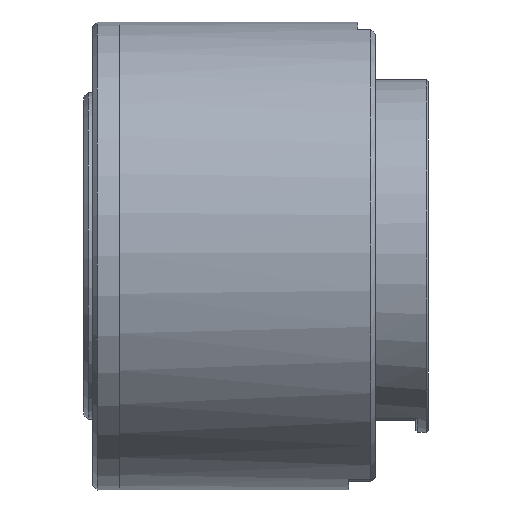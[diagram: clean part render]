
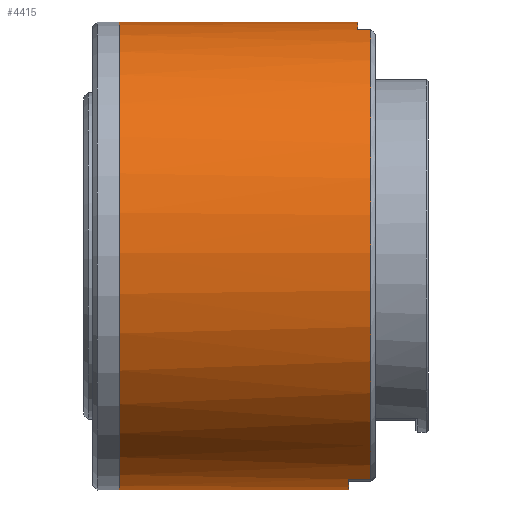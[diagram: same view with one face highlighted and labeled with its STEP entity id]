
A CAD part, top view. The second image highlights one B-rep face of the part: STEP entity #4415.
In plain terms, the highlighted cylindrical face has radius 26.5 mm (diameter 53 mm), a full revolution.
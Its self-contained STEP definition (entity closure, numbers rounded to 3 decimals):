
#100=CYLINDRICAL_SURFACE('',#4914,26.5);
#394=FACE_OUTER_BOUND('',#662,.T.);
#662=EDGE_LOOP('',(#3418,#3419,#3420,#3421,#3422,#3423,#3424,#3425,#3426,
#3427,#3428,#3429,#3430));
#943=LINE('',#7458,#1190);
#954=LINE('',#7505,#1201);
#963=LINE('',#7554,#1210);
#964=LINE('',#7561,#1211);
#965=LINE('',#7565,#1212);
#1190=VECTOR('',#5896,10.);
#1201=VECTOR('',#5937,10.);
#1210=VECTOR('',#5970,26.5);
#1211=VECTOR('',#5977,10.);
#1212=VECTOR('',#5980,10.);
#1516=CIRCLE('',#4915,26.5);
#1517=CIRCLE('',#4916,26.5);
#1518=CIRCLE('',#4917,26.5);
#1519=CIRCLE('',#4918,26.5);
#1520=CIRCLE('',#4919,26.5);
#1521=CIRCLE('',#4920,26.5);
#1522=CIRCLE('',#4921,26.5);
#1939=VERTEX_POINT('',#7444);
#1940=VERTEX_POINT('',#7457);
#1960=VERTEX_POINT('',#7502);
#1961=VERTEX_POINT('',#7504);
#1976=VERTEX_POINT('',#7551);
#1977=VERTEX_POINT('',#7553);
#1978=VERTEX_POINT('',#7555);
#1979=VERTEX_POINT('',#7558);
#1980=VERTEX_POINT('',#7560);
#1981=VERTEX_POINT('',#7562);
#1982=VERTEX_POINT('',#7564);
#2474=EDGE_CURVE('',#1939,#1940,#943,.T.);
#2497=EDGE_CURVE('',#1960,#1961,#954,.T.);
#2515=EDGE_CURVE('',#1939,#1976,#1516,.T.);
#2516=EDGE_CURVE('',#1976,#1977,#963,.T.);
#2517=EDGE_CURVE('',#1977,#1978,#1517,.T.);
#2518=EDGE_CURVE('',#1978,#1977,#1518,.T.);
#2519=EDGE_CURVE('',#1976,#1979,#1519,.T.);
#2520=EDGE_CURVE('',#1979,#1980,#964,.T.);
#2521=EDGE_CURVE('',#1980,#1981,#1520,.T.);
#2522=EDGE_CURVE('',#1981,#1982,#965,.T.);
#2523=EDGE_CURVE('',#1982,#1961,#1521,.T.);
#2524=EDGE_CURVE('',#1960,#1940,#1522,.T.);
#3418=ORIENTED_EDGE('',*,*,#2474,.F.);
#3419=ORIENTED_EDGE('',*,*,#2515,.T.);
#3420=ORIENTED_EDGE('',*,*,#2516,.T.);
#3421=ORIENTED_EDGE('',*,*,#2517,.T.);
#3422=ORIENTED_EDGE('',*,*,#2518,.T.);
#3423=ORIENTED_EDGE('',*,*,#2516,.F.);
#3424=ORIENTED_EDGE('',*,*,#2519,.T.);
#3425=ORIENTED_EDGE('',*,*,#2520,.T.);
#3426=ORIENTED_EDGE('',*,*,#2521,.T.);
#3427=ORIENTED_EDGE('',*,*,#2522,.T.);
#3428=ORIENTED_EDGE('',*,*,#2523,.T.);
#3429=ORIENTED_EDGE('',*,*,#2497,.F.);
#3430=ORIENTED_EDGE('',*,*,#2524,.T.);
#4415=ADVANCED_FACE('',(#394),#100,.T.);
#4914=AXIS2_PLACEMENT_3D('',#7550,#5966,#5967);
#4915=AXIS2_PLACEMENT_3D('',#7552,#5968,#5969);
#4916=AXIS2_PLACEMENT_3D('',#7556,#5971,#5972);
#4917=AXIS2_PLACEMENT_3D('',#7557,#5973,#5974);
#4918=AXIS2_PLACEMENT_3D('',#7559,#5975,#5976);
#4919=AXIS2_PLACEMENT_3D('',#7563,#5978,#5979);
#4920=AXIS2_PLACEMENT_3D('',#7566,#5981,#5982);
#4921=AXIS2_PLACEMENT_3D('',#7567,#5983,#5984);
#5896=DIRECTION('',(-1.,0.,0.));
#5937=DIRECTION('',(1.,0.,0.));
#5966=DIRECTION('center_axis',(1.,0.,0.));
#5967=DIRECTION('ref_axis',(0.,-0.033,-0.999));
#5968=DIRECTION('center_axis',(-1.,0.,0.));
#5969=DIRECTION('ref_axis',(0.,-0.033,-0.999));
#5970=DIRECTION('',(-1.,0.,0.));
#5971=DIRECTION('center_axis',(1.,0.,0.));
#5972=DIRECTION('ref_axis',(0.,-0.033,-0.999));
#5973=DIRECTION('center_axis',(1.,0.,0.));
#5974=DIRECTION('ref_axis',(0.,-0.033,-0.999));
#5975=DIRECTION('center_axis',(-1.,0.,0.));
#5976=DIRECTION('ref_axis',(0.,-0.033,-0.999));
#5977=DIRECTION('',(-1.,0.,0.));
#5978=DIRECTION('center_axis',(-1.,0.,0.));
#5979=DIRECTION('ref_axis',(0.,-0.033,-0.999));
#5980=DIRECTION('',(1.,0.,0.));
#5981=DIRECTION('center_axis',(-1.,0.,0.));
#5982=DIRECTION('ref_axis',(0.,-0.033,-0.999));
#5983=DIRECTION('center_axis',(-1.,0.,0.));
#5984=DIRECTION('ref_axis',(0.,-0.033,-0.999));
#7444=CARTESIAN_POINT('',(-15.76,-37.343,8.477));
#7457=CARTESIAN_POINT('',(-18.26,-37.343,8.477));
#7458=CARTESIAN_POINT('',(-23.51,-37.343,8.477));
#7502=CARTESIAN_POINT('',(-18.26,-37.847,-6.803));
#7504=CARTESIAN_POINT('',(-15.76,-37.847,-6.803));
#7505=CARTESIAN_POINT('',(-23.51,-37.847,-6.803));
#7550=CARTESIAN_POINT('Origin',(-23.51,-12.235,0.));
#7551=CARTESIAN_POINT('',(-15.76,-11.361,26.486));
#7552=CARTESIAN_POINT('Origin',(-15.76,-12.235,0.));
#7553=CARTESIAN_POINT('',(-44.26,-11.361,26.486));
#7554=CARTESIAN_POINT('',(-23.51,-11.361,26.486));
#7555=CARTESIAN_POINT('',(-44.26,-13.109,-26.486));
#7556=CARTESIAN_POINT('Origin',(-44.26,-12.235,0.));
#7557=CARTESIAN_POINT('Origin',(-44.26,-12.235,0.));
#7558=CARTESIAN_POINT('',(-15.76,13.541,6.153));
#7559=CARTESIAN_POINT('Origin',(-15.76,-12.235,0.));
#7560=CARTESIAN_POINT('',(-17.26,13.541,6.153));
#7561=CARTESIAN_POINT('',(-17.51,13.541,6.153));
#7562=CARTESIAN_POINT('',(-17.26,13.079,-7.839));
#7563=CARTESIAN_POINT('Origin',(-17.26,-12.235,0.));
#7564=CARTESIAN_POINT('',(-15.76,13.079,-7.839));
#7565=CARTESIAN_POINT('',(-17.51,13.079,-7.839));
#7566=CARTESIAN_POINT('Origin',(-15.76,-12.235,0.));
#7567=CARTESIAN_POINT('Origin',(-18.26,-12.235,0.));
